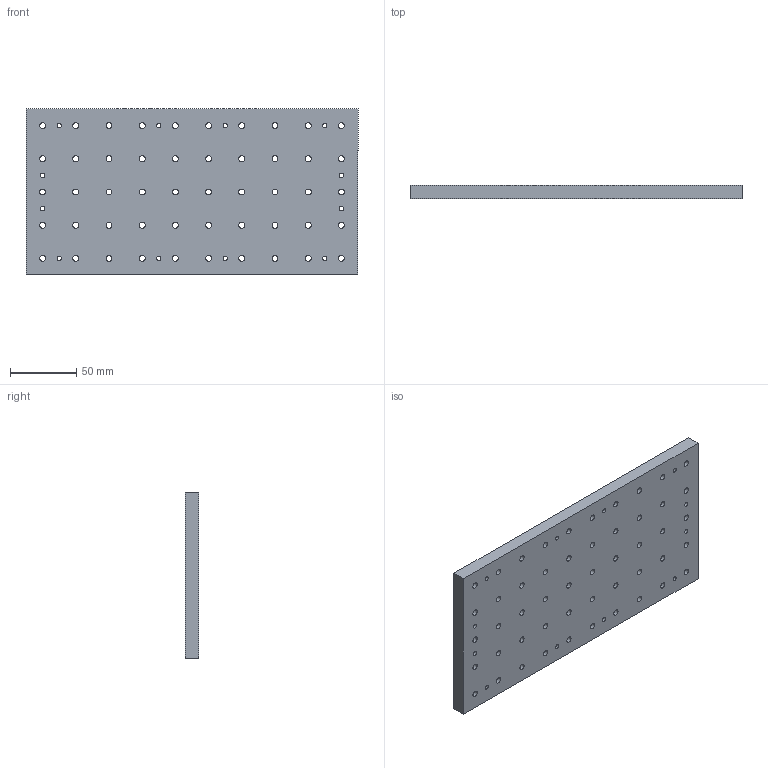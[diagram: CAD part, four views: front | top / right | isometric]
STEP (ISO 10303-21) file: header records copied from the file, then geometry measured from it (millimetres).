
FILE_DESCRIPTION(/* description */ (''),/* implementation_level */ '2;1');
FILE_NAME(/* name */ 'c-10x5-complete.stp',/* time_stamp */ '2026-04-29T11:40:04+08:00',/* author */ ('32769'),/* organization */ (''),/* preprocessor_version */ 'ST-DEVELOPER v20',/* originating_system */ 'Autodesk Inventor 2025',/* authorisation */ '');
FILE_SCHEMA (('AUTOMOTIVE_DESIGN { 1 0 10303 214 3 1 1 }'));
Length unit declared in the file: millimetre
Products named in the file (1): c-10x5-complete
Bounding box: 250 x 10 x 125 mm (x, y, z)
Volume: 303521.5 mm3; surface area: 76517 mm2
Topology: 1 solids, 1 shells, 68 faces, 198 edges, 132 vertices
Faces by surface type: cylinder 62, plane 6
Full cylindrical faces by diameter (mm): 3.3 x12, 4.5 x50
Entity records: 2617 total; most frequent: DIRECTION 460, CARTESIAN_POINT 399, ORIENTED_EDGE 396, EDGE_CURVE 198, AXIS2_PLACEMENT_3D 193, EDGE_LOOP 192, VERTEX_POINT 132, FACE_BOUND 124
